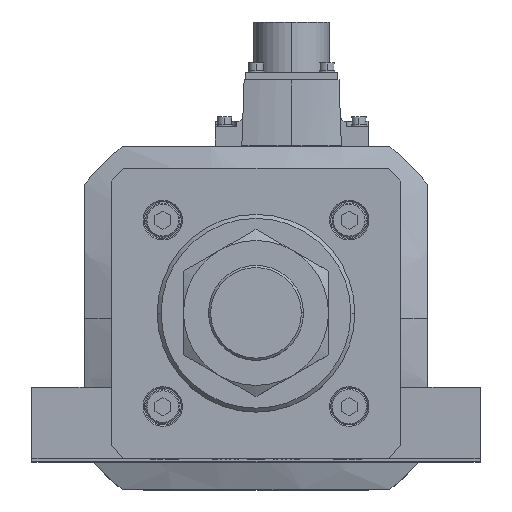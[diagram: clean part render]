
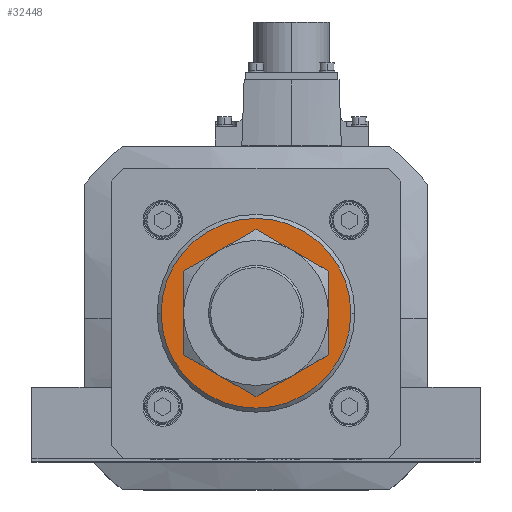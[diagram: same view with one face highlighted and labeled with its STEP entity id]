
A CAD part, top view. The second image highlights one B-rep face of the part: STEP entity #32448.
In plain terms, the highlighted planar face has unit normal (0, 0, 1).
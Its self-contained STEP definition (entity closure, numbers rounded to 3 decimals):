
#714 = DIRECTION ( 'NONE',  ( 0., 0., -1. ) ) ;
#2434 = FACE_BOUND ( 'NONE', #22344, .T. ) ;
#3314 = CIRCLE ( 'NONE', #24720, 23. ) ;
#3893 = EDGE_CURVE ( 'NONE', #6829, #33788, #36348, .T. ) ;
#4009 = VERTEX_POINT ( 'NONE', #28945 ) ;
#4264 = FACE_OUTER_BOUND ( 'NONE', #37390, .T. ) ;
#5514 = AXIS2_PLACEMENT_3D ( 'NONE', #17133, #29088, #11388 ) ;
#6829 = VERTEX_POINT ( 'NONE', #20616 ) ;
#8876 = EDGE_CURVE ( 'NONE', #4009, #10607, #23928, .T. ) ;
#10576 = CARTESIAN_POINT ( 'NONE',  ( 0., 0., 796. ) ) ;
#10607 = VERTEX_POINT ( 'NONE', #25645 ) ;
#11388 = DIRECTION ( 'NONE',  ( 1., 0., 0. ) ) ;
#16608 = CARTESIAN_POINT ( 'NONE',  ( 0., 0., 796. ) ) ;
#17133 = CARTESIAN_POINT ( 'NONE',  ( 0., 0., 796. ) ) ;
#17781 = CIRCLE ( 'NONE', #5514, 36. ) ;
#19128 = DIRECTION ( 'NONE',  ( 1., 0., 0. ) ) ;
#19256 = DIRECTION ( 'NONE',  ( 0., 0., 1. ) ) ;
#19397 = DIRECTION ( 'NONE',  ( 0., 0., 1. ) ) ;
#20418 = CARTESIAN_POINT ( 'NONE',  ( -36., 0., 796. ) ) ;
#20616 = CARTESIAN_POINT ( 'NONE',  ( 36., 0., 796. ) ) ;
#22344 = EDGE_LOOP ( 'NONE', ( #26452, #33711 ) ) ;
#23928 = CIRCLE ( 'NONE', #28198, 23. ) ;
#24118 = AXIS2_PLACEMENT_3D ( 'NONE', #16608, #19397, #27949 ) ;
#24720 = AXIS2_PLACEMENT_3D ( 'NONE', #26919, #714, #27171 ) ;
#25645 = CARTESIAN_POINT ( 'NONE',  ( 23., 0., 796. ) ) ;
#26452 = ORIENTED_EDGE ( 'NONE', *, *, #30702, .T. ) ;
#26761 = ORIENTED_EDGE ( 'NONE', *, *, #3893, .T. ) ;
#26834 = EDGE_CURVE ( 'NONE', #33788, #6829, #17781, .T. ) ;
#26919 = CARTESIAN_POINT ( 'NONE',  ( 0., 0., 796. ) ) ;
#27171 = DIRECTION ( 'NONE',  ( 1., 0., 0. ) ) ;
#27949 = DIRECTION ( 'NONE',  ( 1., 0., 0. ) ) ;
#28198 = AXIS2_PLACEMENT_3D ( 'NONE', #36578, #30838, #19128 ) ;
#28309 = DIRECTION ( 'NONE',  ( 1., 0., 0. ) ) ;
#28945 = CARTESIAN_POINT ( 'NONE',  ( -23., 0., 796. ) ) ;
#29088 = DIRECTION ( 'NONE',  ( 0., 0., 1. ) ) ;
#30702 = EDGE_CURVE ( 'NONE', #10607, #4009, #3314, .T. ) ;
#30838 = DIRECTION ( 'NONE',  ( 0., 0., -1. ) ) ;
#32448 = ADVANCED_FACE ( 'NONE', ( #2434, #4264 ), #36824, .T. ) ;
#33711 = ORIENTED_EDGE ( 'NONE', *, *, #8876, .T. ) ;
#33788 = VERTEX_POINT ( 'NONE', #20418 ) ;
#34847 = ORIENTED_EDGE ( 'NONE', *, *, #26834, .T. ) ;
#35752 = AXIS2_PLACEMENT_3D ( 'NONE', #10576, #19256, #28309 ) ;
#36348 = CIRCLE ( 'NONE', #24118, 36. ) ;
#36578 = CARTESIAN_POINT ( 'NONE',  ( 0., 0., 796. ) ) ;
#36824 = PLANE ( 'NONE',  #35752 ) ;
#37390 = EDGE_LOOP ( 'NONE', ( #34847, #26761 ) ) ;
